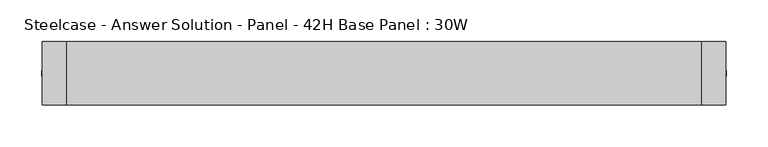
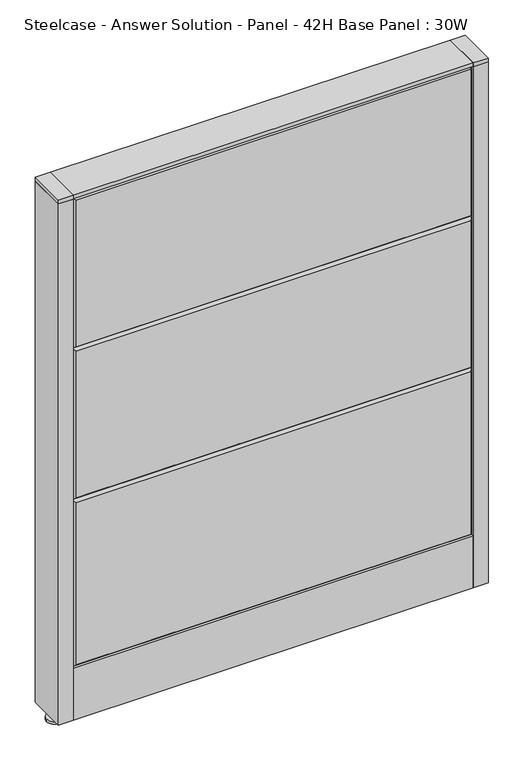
"""IFC4 building model written with IfcOpenShell, lengths in millimetres: furniture geometry, Steelcase - Answer Solution - Panel - 42H Base Panel : 30W."""

from ifc_helpers import new_model, si_unit, point, frame, frame_2d, origin, place, context, project, spatial, polyline, circle_curve, trimmed, segment, composite_curve, outline, extrude, faceted_brep, source, transform, mapped, element, save


def steelcase_answer_solution_panel_42h_base_panel_30w_fd92996a(model_context):
    return source(origin(), model_context, "Body", "SolidModel", [
        extrude(outline(composite_curve([segment(trimmed(circle_curve(frame_2d((395.224, 0.0039657)), 5.08), [point((400.304, 0.0039657))], [point((390.144, 0.0039657))], False, "CARTESIAN"), True, "CONTINUOUS"), segment(trimmed(circle_curve(frame_2d((395.224, 0.0039657)), 5.08), [point((390.144, 0.0039657))], [point((400.304, 0.0039657))], False, "CARTESIAN"), True, "CONTINUOUS")], self_intersect=False)), frame((0.0, 0.0, 5.0799671), z_axis=(0.0, 0.0, 1.0), x_axis=(1.0, 0.0, 0.0)), (0.0, 0.0, 1.0), 10.414),
        extrude(outline(composite_curve([segment(trimmed(circle_curve(frame_2d((395.224, 0.0039657)), 15.24), [point((410.464, 0.0039657))], [point((379.984, 0.0039657))], False, "CARTESIAN"), True, "CONTINUOUS"), segment(trimmed(circle_curve(frame_2d((395.224, 0.0039657)), 15.24), [point((379.984, 0.0039657))], [point((410.464, 0.0039657))], False, "CARTESIAN"), True, "CONTINUOUS")], self_intersect=False)), frame((0.0, 0.0, -3.29e-05), z_axis=(0.0, 0.0, 1.0), x_axis=(1.0, 0.0, 0.0)), (0.0, 0.0, 1.0), 5.08),
        extrude(outline(polyline([(409.575, 38.1039851), (409.575, -38.0960149), (381.0, -38.0960149), (381.0, 38.1039851), (409.575, 38.1039851)])), frame((0.0, 0.0, 1065.8348), z_axis=(0.0, 0.0, 1.0), x_axis=(1.0, 0.0, 0.0)), (0.0, 0.0, 1.0), 7.3151671),
        extrude(outline(polyline([(409.575, 38.1039851), (409.575, -38.0960149), (381.0, -38.0960149), (381.0, 38.1039851), (409.575, 38.1039851)])), frame((0.0, 0.0, 15.4939671), z_axis=(0.0, 0.0, 1.0), x_axis=(1.0, 0.0, 0.0)), (0.0, 0.0, 1.0), 1050.3408329),
        extrude(outline(composite_curve([segment(trimmed(circle_curve(frame_2d((-395.224, 0.0039657)), 5.08), [point((-400.304, 0.0039657))], [point((-390.144, 0.0039657))], False, "CARTESIAN"), True, "CONTINUOUS"), segment(trimmed(circle_curve(frame_2d((-395.224, 0.0039657)), 5.08), [point((-390.144, 0.0039657))], [point((-400.304, 0.0039657))], False, "CARTESIAN"), True, "CONTINUOUS")], self_intersect=False)), frame((0.0, 0.0, 5.0799671), z_axis=(0.0, 0.0, 1.0), x_axis=(1.0, 0.0, 0.0)), (0.0, 0.0, 1.0), 10.414),
        extrude(outline(composite_curve([segment(trimmed(circle_curve(frame_2d((-395.224, 0.0039657)), 15.24), [point((-410.464, 0.0039657))], [point((-379.984, 0.0039657))], False, "CARTESIAN"), True, "CONTINUOUS"), segment(trimmed(circle_curve(frame_2d((-395.224, 0.0039657)), 15.24), [point((-379.984, 0.0039657))], [point((-410.464, 0.0039657))], False, "CARTESIAN"), True, "CONTINUOUS")], self_intersect=False)), frame((0.0, 0.0, -3.29e-05), z_axis=(0.0, 0.0, 1.0), x_axis=(1.0, 0.0, 0.0)), (0.0, 0.0, 1.0), 5.08),
        extrude(outline(polyline([(-409.575, 38.1039851), (-381.0, 38.1039851), (-381.0, -38.0960149), (-409.575, -38.0960149), (-409.575, 38.1039851)])), frame((0.0, 0.0, 1065.8348), z_axis=(0.0, 0.0, 1.0), x_axis=(1.0, 0.0, 0.0)), (0.0, 0.0, 1.0), 7.3151671),
        extrude(outline(polyline([(-409.575, 38.1039851), (-381.0, 38.1039851), (-381.0, -38.0960149), (-409.575, -38.0960149), (-409.575, 38.1039851)])), frame((0.0, 0.0, 15.4939671), z_axis=(0.0, 0.0, 1.0), x_axis=(1.0, 0.0, 0.0)), (0.0, 0.0, 1.0), 1050.3408329),
        faceted_brep([(-376.174, 38.1635011, 1061.974), (376.174, 38.1635011, 1061.974), (376.174, 38.1635011, 766.826), (-376.174, 38.1635011, 766.826), (-381.0, 33.3375011, 1066.8), (-381.0, 33.3375011, 762.0), (381.0, 33.3375011, 762.0), (381.0, 33.3375011, 1066.8)], [[[0, 1, 2, 3]], [[4, 5, 6, 7]], [[4, 7, 1, 0]], [[7, 6, 2, 1]], [[6, 5, 3, 2]], [[5, 4, 0, 3]]]),
        faceted_brep([(-376.174, 38.1635011, 757.174), (376.174, 38.1635011, 757.174), (376.174, 38.1635011, 462.026), (-376.174, 38.1635011, 462.026), (-381.0, 33.3375011, 762.0), (-381.0, 33.3375011, 457.2), (381.0, 33.3375011, 457.2), (381.0, 33.3375011, 762.0)], [[[0, 1, 2, 3]], [[4, 5, 6, 7]], [[4, 7, 1, 0]], [[7, 6, 2, 1]], [[6, 5, 3, 2]], [[5, 4, 0, 3]]]),
        faceted_brep([(-376.174, 38.1635011, 452.374), (376.174, 38.1635011, 452.374), (376.174, 38.1635011, 125.476), (-376.174, 38.1635011, 125.476), (-381.0, 33.3375011, 457.2), (-381.0, 33.3375011, 120.65), (381.0, 33.3375011, 120.65), (381.0, 33.3375011, 457.2)], [[[0, 1, 2, 3]], [[4, 5, 6, 7]], [[4, 7, 1, 0]], [[7, 6, 2, 1]], [[6, 5, 3, 2]], [[5, 4, 0, 3]]]),
        faceted_brep([(376.174, -38.1635011, 1061.974), (-376.174, -38.1635011, 1061.974), (-376.174, -38.1635011, 766.826), (376.174, -38.1635011, 766.826), (381.0, -33.3375011, 1066.8), (381.0, -33.3375011, 762.0), (-381.0, -33.3375011, 762.0), (-381.0, -33.3375011, 1066.8)], [[[0, 1, 2, 3]], [[4, 5, 6, 7]], [[4, 7, 1, 0]], [[7, 6, 2, 1]], [[6, 5, 3, 2]], [[5, 4, 0, 3]]]),
        faceted_brep([(376.174, -38.1635011, 757.174), (-376.174, -38.1635011, 757.174), (-376.174, -38.1635011, 462.026), (376.174, -38.1635011, 462.026), (381.0, -33.3375011, 762.0), (381.0, -33.3375011, 457.2), (-381.0, -33.3375011, 457.2), (-381.0, -33.3375011, 762.0)], [[[0, 1, 2, 3]], [[4, 5, 6, 7]], [[4, 7, 1, 0]], [[7, 6, 2, 1]], [[6, 5, 3, 2]], [[5, 4, 0, 3]]]),
        faceted_brep([(376.174, -38.1635011, 452.374), (-376.174, -38.1635011, 452.374), (-376.174, -38.1635011, 125.476), (376.174, -38.1635011, 125.476), (381.0, -33.3375011, 457.2), (381.0, -33.3375011, 120.65), (-381.0, -33.3375011, 120.65), (-381.0, -33.3375011, 457.2)], [[[0, 1, 2, 3]], [[4, 5, 6, 7]], [[4, 7, 1, 0]], [[7, 6, 2, 1]], [[6, 5, 3, 2]], [[5, 4, 0, 3]]]),
        extrude(outline(polyline([(381.0, 38.1000194), (381.0, -38.1000194), (-381.0, -38.1000194), (-381.0, 38.1000194), (381.0, 38.1000194)])), frame((0.0, 0.0, 1066.8), z_axis=(0.0, 0.0, 1.0), x_axis=(1.0, 0.0, 0.0)), (0.0, 0.0, 1.0), 6.35),
        extrude(outline(polyline([(25.4000011, 119.8575157), (25.4000011, 120.65), (38.1000194, 120.65), (38.1000194, 15.494), (37.3075215, 15.494), (37.3075215, 119.8575157), (25.4000011, 119.8575157)])), frame((-381.0, 0.0, 0.0), z_axis=(1.0, 0.0, 0.0), x_axis=(0.0, 1.0, 0.0)), (0.0, 0.0, 1.0), 762.0),
        extrude(outline(polyline([(-25.4000011, 119.8575157), (-37.3075215, 119.8575157), (-37.3075215, 15.494), (-38.1000194, 15.494), (-38.1000194, 120.65), (-25.4000011, 120.65), (-25.4000011, 119.8575157)])), frame((-381.0, 0.0, 0.0), z_axis=(1.0, 0.0, 0.0), x_axis=(0.0, 1.0, 0.0)), (0.0, 0.0, 1.0), 762.0),
    ])


if __name__ == "__main__":
    model = new_model("IFC4")
    model_context = context("Model", 3, world=origin())
    ifc_project = project(units=[si_unit("LENGTHUNIT", "METRE", prefix="MILLI")], contexts=[model_context])
    site = spatial("IfcSite", under=ifc_project)
    building = spatial("IfcBuilding", under=site)
    placement = place(None, origin())
    steelcase_answer_solution_panel_42h_base_panel_30w_shape = steelcase_answer_solution_panel_42h_base_panel_30w_fd92996a(model_context)
    element("IfcFurniture", 1, ObjectType="Steelcase - Answer Solution - Panel - 42H Base Panel : 30W", at=placement, inside=building, context=model_context, shape_type="MappedRepresentation", body=[
        mapped(steelcase_answer_solution_panel_42h_base_panel_30w_shape, transform((0.0, 0.0, 0.0), x_axis=(1.0, 0.0, 0.0), y_axis=(0.0, 1.0, 0.0), z_axis=(0.0, 0.0, 1.0))),
    ])
    save(model, "model.ifc")
